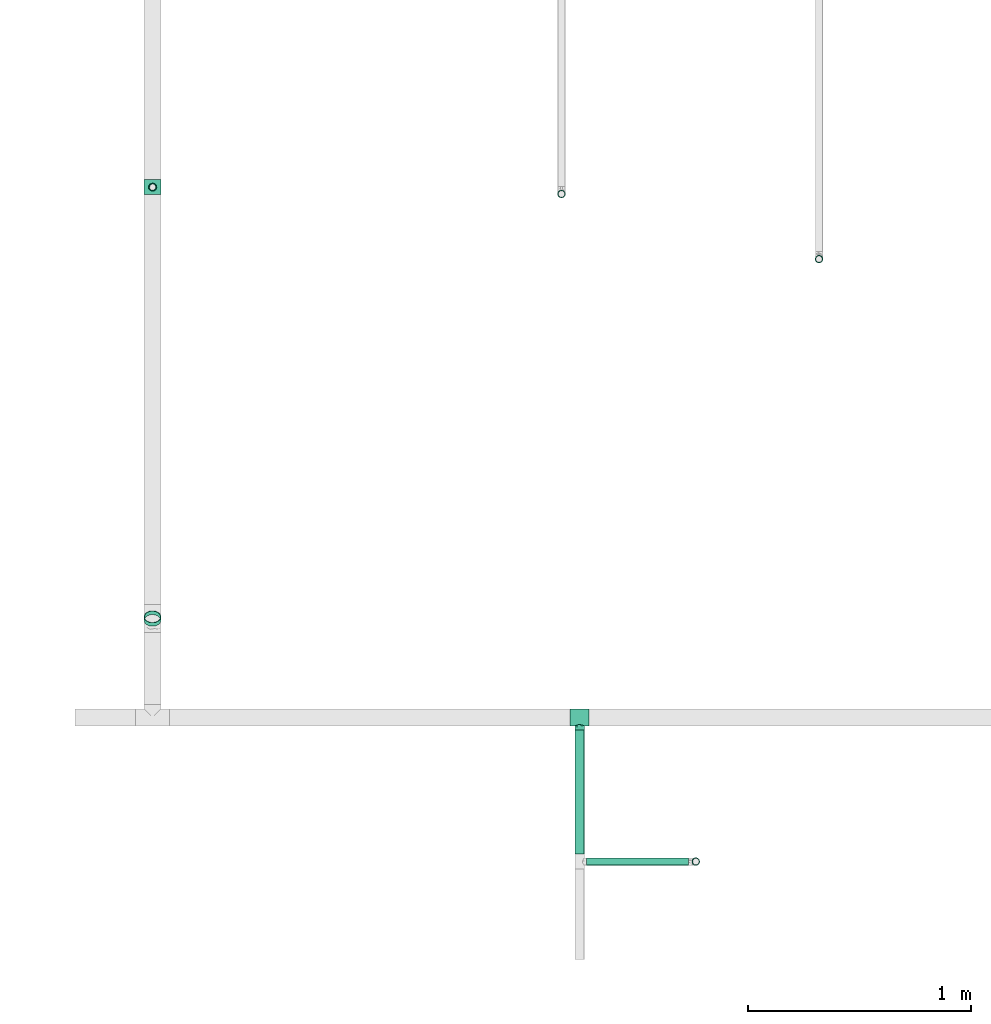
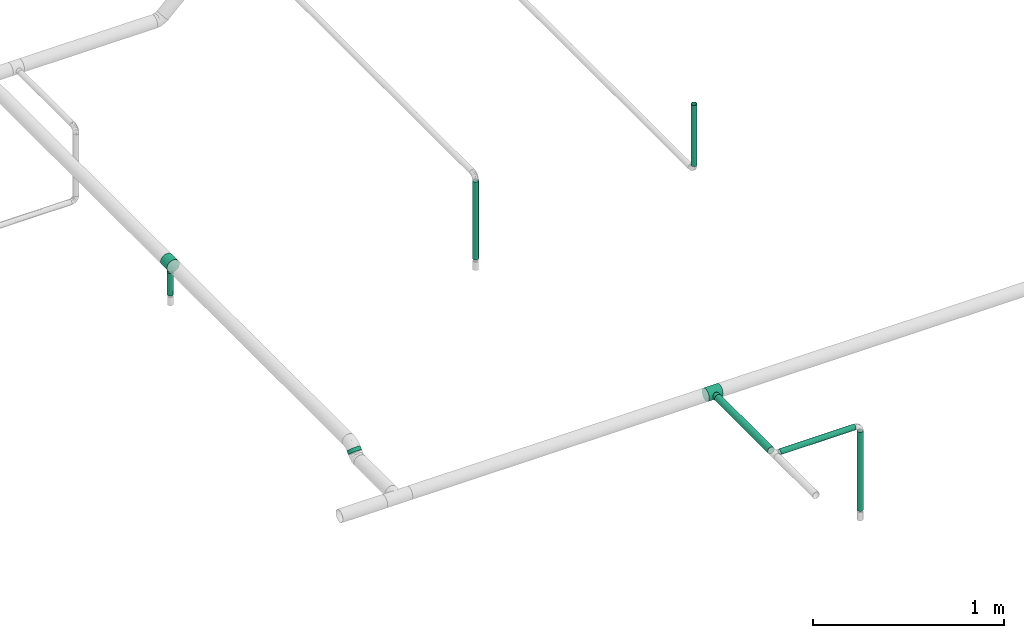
# One storey, part 3 of 95: 7 flow segments, 2 flow fittings.
"""IFC2X3 building model written with IfcOpenShell, lengths in millimetres."""

from ifc_helpers import new_model, entity, si_unit, converted_unit, derived_unit, direction, frame, origin_with_axes, origin_2d_with_axis, place, context, subcontext, project, spatial, hollow_circle, extrude, open_shell, surface_model, source, transform, mapped, type_object, element, save


model = new_model("IFC2X3")

# Units and contexts
model_context = context("Model", 3, precision=0.01, world=frame((0.0, 4.29681676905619e-09, 0.0)), true_north=direction((4.01073788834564e-13, 1.0)))
plan_context = context("Plan", 3, precision=0.01, world=frame((0.0, 4.29681676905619e-09, 0.0)), true_north=direction((4.01073788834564e-13, 1.0)))
body_context = subcontext(model_context, "Body", "Model", "MODEL_VIEW")
ifc_project = project(units=[converted_unit("PLANEANGLEUNIT", "DEGREE", entity("IfcPositiveLengthMeasure", 0.0174532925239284), si_unit("PLANEANGLEUNIT", "RADIAN"), dimensions=[0, 0, 0, 0, 0, 0, 0]), si_unit("AREAUNIT", "SQUARE_METRE"), si_unit("LENGTHUNIT", "METRE", prefix="MILLI"), si_unit("MASSUNIT", "GRAM", prefix="KILO"), si_unit("POWERUNIT", "WATT"), si_unit("PRESSUREUNIT", "PASCAL"), si_unit("FORCEUNIT", "NEWTON", prefix="KILO"), si_unit("ELECTRICVOLTAGEUNIT", "VOLT"), si_unit("ELECTRICCURRENTUNIT", "AMPERE"), si_unit("THERMODYNAMICTEMPERATUREUNIT", "DEGREE_CELSIUS"), si_unit("TIMEUNIT", "SECOND"), si_unit("VOLUMEUNIT", "CUBIC_METRE"), derived_unit("LINEARVELOCITYUNIT", [(si_unit("LENGTHUNIT", "METRE"), 1), (si_unit("TIMEUNIT", "SECOND"), -1)]), derived_unit("VOLUMETRICFLOWRATEUNIT", [(si_unit("VOLUMEUNIT", "CUBIC_METRE"), 1), (si_unit("TIMEUNIT", "SECOND"), -1)]), derived_unit("THERMALTRANSMITTANCEUNIT", [(si_unit("POWERUNIT", "WATT"), 1), (si_unit("THERMODYNAMICTEMPERATUREUNIT", "KELVIN"), -1), (si_unit("AREAUNIT", "SQUARE_METRE"), -1)]), derived_unit("SOUNDPRESSUREUNIT", [(si_unit("PRESSUREUNIT", "PASCAL"), 1)])], contexts=[model_context, plan_context])

# Site, building, storey
site_placement = place(None, frame((0.0, -4.29681676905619e-09, 0.0), z_axis=(0.0, 0.0, 1.0), x_axis=(1.0, 0.0, 0.0)))
site = spatial("IfcSite", under=ifc_project, at=site_placement, CompositionType="ELEMENT")
building_placement = place(site_placement, frame((0.0, 4.29681676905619e-09, 0.0), z_axis=(0.0, 0.0, 1.0), x_axis=(1.0, 0.0, 0.0)))
building = spatial("IfcBuilding", under=site, at=building_placement, Name="mc-building", CompositionType="ELEMENT")
storey_placement = place(building_placement, frame((0.0, 0.0, 210900.0), z_axis=(0.0, 0.0, 1.0), x_axis=(1.0, 0.0, 0.0)))
storey = spatial("IfcBuildingStorey", under=building, at=storey_placement, Name="Nivå F", CompositionType="ELEMENT", Elevation=210900.0)

# Flow fittings
pipe_fitting_type = type_object("IfcPipeFittingType", Name="magi_pipe_fe_tee_centric_90_NOR", PredefinedType="JUNCTION")
shared_shape_1 = source(origin_with_axes(), body_context, "Body", "SurfaceModel", [
    surface_model("IfcShellBasedSurfaceModel", [(42.4, 0.0, 38.1), (42.4, -38.1, 0.0), (42.4, 19.05, 32.99557), (-42.4, 9.86101, -36.80177), (-42.4, 0.0, -38.1), (-42.4, 36.80177, -9.86101), (-42.4, 19.05, -32.99557), (-42.4, 32.99557, -19.05), (-42.4, 26.94077, -26.94077), (-42.4, -38.1, 0.0), (-42.4, -19.05, -32.99557), (-42.4, -26.94077, -26.94077), (-42.4, -9.86101, -36.80177), (-42.4, -32.99557, -19.05), (-42.4, -36.80177, -9.86101), (-42.4, 38.1, 0.0), (-42.4, 32.99557, 19.05), (-42.4, 36.80177, 9.86101), (-42.4, -36.80177, 9.86101), (-42.4, 19.05, 32.99557), (-42.4, 26.94077, 26.94077), (-42.4, 9.86101, 36.80177), (-42.4, 0.0, 38.1), (-42.4, -26.94077, 26.94077), (-42.4, -32.99557, 19.05), (-42.4, -9.86101, 36.80177), (-42.4, -19.05, 32.99557), (42.4, 26.94077, -26.94077), (42.4, 0.0, -38.1), (42.4, 9.86101, -36.80177), (42.4, 19.05, -32.99557), (42.4, 32.99557, -19.05), (42.4, 36.80177, -9.86101), (42.4, -9.86101, -36.80177), (42.4, -26.94077, -26.94077), (42.4, -19.05, -32.99557), (42.4, -32.99557, -19.05), (42.4, -36.80177, -9.86101), (42.4, 38.1, 0.0), (42.4, 36.80177, 9.86101), (42.4, 32.99557, 19.05), (42.4, 26.94077, 26.94077), (42.4, 9.86101, 36.80177), (42.4, -26.94077, 26.94077), (42.4, -32.99557, 19.05), (42.4, -36.80177, 9.86101), (42.4, -19.05, 32.99557), (42.4, -9.86101, 36.80177), (42.4, -37.45089, 4.9305), (19.87843, -37.38077, 7.36803), (20.53922, -37.74039, 3.68402), (16.19602, -35.55954, 13.67951), (3.75245, -31.87869, 20.86526), (21.2, -38.1, 0.0), (42.4, -34.89867, 14.4555), (10.67276, -33.40775, 18.31754), (-10.67466, -33.40836, 18.31643), (-42.4, -34.89867, 14.4555), (-16.20118, -35.56189, 13.6734), (-19.87911, -37.38113, 7.36619), (-42.4, -37.45089, 4.9305), (-20.53956, -37.74057, 3.6831), (-21.2, -38.1, 0.0), (-3.75861, -31.87942, 20.86415), (-42.4, -37.45089, -4.9305), (-19.87911, -37.38113, -7.36619), (-20.53956, -37.74057, -3.6831), (10.67276, -33.40775, -18.31754), (42.4, -34.89867, -14.4555), (16.19602, -35.55954, -13.67951), (20.53922, -37.74039, -3.68402), (42.4, -37.45089, -4.9305), (3.75245, -31.87869, -20.86526), (19.87843, -37.38077, -7.36803), (-3.75861, -31.87942, -20.86415), (-10.67466, -33.40836, -18.31643), (-16.20118, -35.56189, -13.6734), (-42.4, -34.89867, -14.4555), (14.99066, -57.15, -14.99066), (0.0, -57.15, -21.2), (5.48696, -57.15, -20.47763), (10.6, -57.15, -18.35974), (18.35974, -57.15, -10.6), (20.47763, -57.15, -5.48696), (-21.2, -57.15, 0.0), (-10.6, -57.15, 18.35974), (-5.48696, -57.15, -20.47763), (-14.99066, -57.15, -14.99066), (-10.6, -57.15, -18.35974), (-18.35974, -57.15, -10.6), (-20.47763, -57.15, -5.48696), (20.47763, -57.15, 5.48696), (18.35974, -57.15, 10.6), (10.6, -57.15, 18.35974), (14.99066, -57.15, 14.99066), (0.0, -57.15, 21.2), (5.48696, -57.15, 20.47763), (-14.99066, -57.15, 14.99066), (-18.35974, -57.15, 10.6), (-20.47763, -57.15, 5.48696), (-5.48696, -57.15, 20.47763), (21.2, -57.15, 0.0), (-7.21663, -32.64389, 19.59029), (-0.00308, -31.87905, 20.86471), (7.21261, -32.64322, 19.5914), (7.21261, -32.64322, -19.5914), (-0.00308, -31.87905, -20.86471), (-7.21663, -32.64389, -19.59029)], [open_shell([[[0, 1, 2]], [[3, 4, 5]], [[6, 3, 5]], [[5, 7, 8]], [[6, 5, 8]], [[9, 5, 4]], [[10, 11, 12]], [[11, 4, 12]], [[13, 14, 11]], [[9, 11, 14]], [[11, 9, 4]], [[9, 15, 5]], [[16, 17, 15]], [[18, 16, 9]], [[19, 16, 18]], [[20, 16, 19]], [[21, 19, 22]], [[23, 22, 24]], [[19, 18, 24]], [[25, 22, 26]], [[23, 26, 22]], [[24, 22, 19]], [[15, 9, 16]], [[27, 28, 29]], [[27, 29, 30]], [[27, 31, 32]], [[28, 27, 1]], [[1, 27, 32]], [[33, 34, 35]], [[33, 28, 34]], [[36, 1, 37]], [[1, 36, 34]], [[28, 1, 34]], [[32, 38, 1]], [[38, 39, 40]], [[40, 2, 1]], [[2, 40, 41]], [[42, 0, 2]], [[1, 43, 44]], [[44, 45, 1]], [[46, 0, 47]], [[46, 43, 1]], [[1, 0, 46]], [[40, 1, 38]], [[48, 45, 49]], [[1, 48, 50]], [[45, 51, 49]], [[44, 43, 52]], [[1, 50, 53]], [[51, 54, 55]], [[52, 55, 44]], [[48, 49, 50]], [[43, 23, 52]], [[55, 54, 44]], [[56, 57, 58]], [[59, 60, 61]], [[62, 61, 9]], [[59, 58, 18]], [[56, 63, 24]], [[51, 45, 54]], [[24, 57, 56]], [[24, 63, 23]], [[58, 57, 18]], [[63, 52, 23]], [[9, 61, 60]], [[59, 18, 60]], [[43, 26, 23]], [[22, 47, 0]], [[25, 46, 47]], [[21, 0, 42]], [[40, 39, 17]], [[20, 2, 41]], [[16, 41, 40]], [[42, 2, 19]], [[15, 39, 38]], [[26, 46, 25]], [[25, 47, 22]], [[21, 22, 0]], [[42, 19, 21]], [[19, 2, 20]], [[16, 20, 41]], [[17, 16, 40]], [[39, 15, 17]], [[46, 26, 43]], [[15, 38, 32]], [[31, 27, 8]], [[64, 65, 66]], [[5, 32, 31]], [[28, 33, 12]], [[3, 30, 29]], [[4, 29, 28]], [[30, 6, 27]], [[10, 33, 35]], [[67, 68, 69]], [[5, 31, 7]], [[15, 32, 5]], [[1, 70, 71]], [[7, 31, 8]], [[8, 27, 6]], [[6, 30, 3]], [[4, 3, 29]], [[12, 4, 28]], [[33, 10, 12]], [[35, 11, 10]], [[34, 36, 72]], [[9, 66, 62]], [[67, 72, 36]], [[68, 67, 36]], [[34, 72, 11]], [[53, 70, 1]], [[73, 69, 37]], [[73, 71, 70]], [[73, 37, 71]], [[37, 69, 68]], [[74, 75, 13]], [[76, 14, 77]], [[13, 11, 74]], [[76, 77, 75]], [[74, 11, 72]], [[76, 65, 14]], [[65, 64, 14]], [[66, 9, 64]], [[77, 13, 75]], [[34, 11, 35]], [[78, 79, 80]], [[78, 80, 81]], [[78, 82, 83]], [[78, 83, 79]], [[84, 79, 85]], [[86, 87, 88]], [[86, 79, 87]], [[89, 84, 90]], [[87, 79, 89]], [[79, 84, 89]], [[79, 83, 85]], [[91, 92, 83]], [[92, 93, 83]], [[93, 85, 83]], [[93, 92, 94]], [[95, 93, 96]], [[84, 97, 98]], [[99, 84, 98]], [[85, 95, 100]], [[85, 97, 84]], [[93, 95, 85]], [[83, 101, 91]], [[99, 61, 84]], [[58, 98, 97]], [[99, 98, 59]], [[97, 85, 56]], [[61, 62, 84]], [[59, 98, 58]], [[100, 63, 102]], [[56, 58, 97]], [[95, 52, 103]], [[93, 104, 96]], [[102, 85, 100]], [[102, 56, 85]], [[99, 59, 61]], [[96, 52, 95]], [[49, 92, 91]], [[50, 101, 53]], [[50, 49, 91]], [[94, 92, 51]], [[95, 63, 100]], [[104, 52, 96]], [[93, 55, 104]], [[93, 94, 55]], [[55, 94, 51]], [[51, 92, 49]], [[101, 50, 91]], [[103, 63, 95]], [[83, 70, 101]], [[69, 82, 78]], [[83, 82, 73]], [[78, 81, 67]], [[70, 53, 101]], [[73, 82, 69]], [[80, 72, 105]], [[67, 69, 78]], [[79, 74, 106]], [[88, 107, 86]], [[66, 84, 62]], [[105, 81, 80]], [[105, 67, 81]], [[75, 88, 87]], [[83, 73, 70]], [[90, 65, 89]], [[89, 76, 87]], [[66, 65, 90]], [[79, 72, 80]], [[86, 107, 74]], [[74, 79, 86]], [[75, 107, 88]], [[75, 87, 76]], [[76, 89, 65]], [[84, 66, 90]], [[106, 72, 79]]])]),
])
flow_fitting_1_placement = place(storey_placement, frame((522779.7291, 441860.92369, 4310.0), z_axis=(0.0, 0.0, -1.0), x_axis=(-1.0, 0.0, 0.0)))
element("IfcFlowFitting", 1, at=flow_fitting_1_placement, inside=storey, type_object=pipe_fitting_type, Name="magi_pipe_fe_tee_centric_90_NOR", context=body_context, shape_type="MappedRepresentation", body=[
    mapped(shared_shape_1, transform((0.0, 0.0, 0.0), scale=1.0)),
])
shared_shape_2 = source(origin_with_axes(), body_context, "Body", "SurfaceModel", [
    surface_model("IfcShellBasedSurfaceModel", [(-33.8, 9.86101, -36.80177), (-33.8, 0.0, -38.1), (-33.8, 36.80177, -9.86101), (-33.8, 19.05, -32.99557), (-33.8, 32.99557, -19.05), (-33.8, 26.94077, -26.94077), (-33.8, -38.1, 0.0), (-33.8, -19.05, -32.99557), (-33.8, -26.94077, -26.94077), (-33.8, -9.86101, -36.80177), (-33.8, -32.99557, -19.05), (-33.8, -36.80177, -9.86101), (-33.8, 38.1, 0.0), (-33.8, 32.99557, 19.05), (-33.8, 36.80177, 9.86101), (-33.8, -36.80177, 9.86101), (-33.8, 19.05, 32.99557), (-33.8, 26.94077, 26.94077), (-33.8, 9.86101, 36.80177), (-33.8, 0.0, 38.1), (-33.8, -26.94077, 26.94077), (-33.8, -32.99557, 19.05), (-33.8, -9.86101, 36.80177), (-33.8, -19.05, 32.99557), (33.8, 0.0, -38.1), (33.8, 9.86101, -36.80177), (33.8, 19.05, -32.99557), (33.8, 26.94077, -26.94077), (33.8, 32.99557, -19.05), (33.8, 36.80177, -9.86101), (33.8, -38.1, 0.0), (33.8, -9.86101, -36.80177), (33.8, -26.94077, -26.94077), (33.8, -19.05, -32.99557), (33.8, -32.99557, -19.05), (33.8, -36.80177, -9.86101), (33.8, 36.80177, 9.86101), (33.8, 32.99557, 19.05), (33.8, 19.05, 32.99557), (33.8, 0.0, 38.1), (33.8, 26.94077, 26.94077), (33.8, 9.86101, 36.80177), (33.8, -26.94077, 26.94077), (33.8, -32.99557, 19.05), (33.8, -36.80177, 9.86101), (33.8, -19.05, 32.99557), (33.8, -9.86101, 36.80177), (33.8, 38.1, 0.0), (33.8, -37.45089, 4.9305), (15.86072, -37.65053, 5.83504), (16.9, -38.1, 0.0), (12.92726, -36.51183, 10.88559), (2.96752, -34.27545, 16.63742), (33.8, -34.89867, 14.4555), (8.48894, -35.18611, 14.61328), (-8.4904, -35.18646, 14.61243), (-33.8, -34.89867, 14.4555), (-15.8612, -37.65073, 5.83372), (-33.8, -37.45089, 4.9305), (-16.9, -38.1, 0.0), (-12.9317, -36.51341, 10.88031), (-2.97221, -34.27585, 16.63658), (-33.8, -37.45089, -4.9305), (-15.8612, -37.65073, -5.83372), (15.86072, -37.65053, -5.83504), (33.8, -37.45089, -4.9305), (-12.9317, -36.51341, -10.88031), (-33.8, -34.89867, -14.4555), (-8.4904, -35.18646, -14.61243), (2.96752, -34.27545, -16.63742), (8.48894, -35.18611, -14.61328), (33.8, -34.89867, -14.4555), (12.92726, -36.51183, -10.88559), (-2.97221, -34.27585, -16.63658), (4.37404, -57.15, -16.32415), (-16.9, -57.15, 0.0), (0.0, -57.15, -16.9), (14.63583, -57.15, -8.45), (8.45, -57.15, -14.63583), (16.32415, -57.15, -4.37404), (11.9501, -57.15, -11.9501), (-11.9501, -57.15, -11.9501), (-8.45, -57.15, -14.63583), (-4.37404, -57.15, -16.32415), (-14.63583, -57.15, -8.45), (-16.32415, -57.15, -4.37404), (16.9, -57.15, 0.0), (8.45, -57.15, 14.63583), (16.32415, -57.15, 4.37404), (14.63583, -57.15, 8.45), (-8.45, -57.15, 14.63583), (11.9501, -57.15, 11.9501), (4.37404, -57.15, 16.32415), (-16.32415, -57.15, 4.37404), (-11.9501, -57.15, 11.9501), (-14.63583, -57.15, 8.45), (0.0, -57.15, 16.9), (-4.37404, -57.15, 16.32415), (-16.3806, -37.87537, 2.91686), (-5.7313, -34.73116, 15.62451), (-0.00235, -34.27565, 16.637), (5.72823, -34.73078, 15.62535), (16.38036, -37.87526, 2.91752), (16.38036, -37.87526, -2.91752), (5.72823, -34.73078, -15.62535), (-0.00235, -34.27565, -16.637), (-5.7313, -34.73116, -15.62451), (-16.3806, -37.87537, -2.91686)], [open_shell([[[0, 1, 2]], [[3, 0, 2]], [[2, 4, 5]], [[3, 2, 5]], [[6, 2, 1]], [[7, 8, 9]], [[8, 1, 9]], [[10, 11, 8]], [[6, 8, 11]], [[8, 6, 1]], [[6, 12, 2]], [[13, 14, 12]], [[15, 13, 6]], [[16, 13, 15]], [[17, 13, 16]], [[18, 16, 19]], [[20, 19, 21]], [[16, 15, 21]], [[22, 19, 23]], [[20, 23, 19]], [[21, 19, 16]], [[12, 6, 13]], [[24, 25, 26]], [[24, 26, 27]], [[27, 28, 29]], [[24, 27, 30]], [[30, 27, 29]], [[31, 32, 33]], [[31, 24, 32]], [[34, 30, 35]], [[30, 34, 32]], [[24, 30, 32]], [[29, 36, 30]], [[36, 37, 30]], [[30, 37, 38]], [[38, 39, 30]], [[38, 37, 40]], [[39, 38, 41]], [[30, 42, 43]], [[44, 30, 43]], [[45, 39, 46]], [[45, 42, 30]], [[30, 39, 45]], [[36, 29, 47]], [[48, 44, 49]], [[50, 30, 48]], [[44, 51, 49]], [[43, 42, 52]], [[50, 48, 49]], [[44, 53, 51]], [[52, 54, 43]], [[42, 20, 52]], [[54, 53, 43]], [[55, 21, 56]], [[57, 58, 59]], [[6, 59, 58]], [[57, 60, 15]], [[55, 61, 21]], [[51, 53, 54]], [[15, 60, 56]], [[21, 61, 20]], [[56, 60, 55]], [[61, 52, 20]], [[57, 15, 58]], [[42, 23, 20]], [[19, 46, 39]], [[22, 45, 46]], [[18, 39, 41]], [[37, 36, 14]], [[17, 38, 40]], [[13, 40, 37]], [[41, 38, 16]], [[12, 36, 47]], [[23, 45, 22]], [[22, 46, 19]], [[18, 19, 39]], [[41, 16, 18]], [[16, 38, 17]], [[13, 17, 40]], [[14, 13, 37]], [[36, 12, 14]], [[45, 23, 42]], [[12, 47, 29]], [[29, 28, 2]], [[59, 62, 63]], [[27, 4, 28]], [[9, 24, 31]], [[0, 26, 25]], [[64, 35, 65]], [[24, 1, 25]], [[31, 33, 7]], [[27, 26, 5]], [[66, 67, 68]], [[4, 2, 28]], [[12, 29, 2]], [[27, 5, 4]], [[3, 26, 0]], [[26, 3, 5]], [[0, 25, 1]], [[9, 1, 24]], [[31, 7, 9]], [[33, 8, 7]], [[32, 34, 69]], [[70, 34, 71]], [[70, 69, 34]], [[35, 72, 71]], [[32, 69, 8]], [[30, 50, 65]], [[64, 72, 35]], [[64, 65, 50]], [[72, 70, 71]], [[73, 68, 10]], [[10, 8, 73]], [[68, 67, 10]], [[73, 8, 69]], [[66, 63, 11]], [[63, 62, 11]], [[62, 59, 6]], [[11, 67, 66]], [[32, 8, 33]], [[74, 75, 76]], [[77, 74, 78]], [[77, 79, 74]], [[77, 78, 80]], [[75, 74, 79]], [[76, 81, 82]], [[82, 83, 76]], [[84, 75, 85]], [[81, 76, 84]], [[75, 84, 76]], [[79, 86, 75]], [[87, 86, 88]], [[87, 88, 89]], [[90, 75, 87]], [[87, 89, 91]], [[90, 87, 92]], [[93, 94, 95]], [[94, 93, 90]], [[90, 96, 97]], [[93, 75, 90]], [[92, 96, 90]], [[87, 75, 86]], [[93, 98, 75]], [[60, 95, 94]], [[93, 95, 57]], [[94, 90, 55]], [[98, 59, 75]], [[57, 95, 60]], [[97, 61, 99]], [[55, 60, 94]], [[96, 52, 100]], [[87, 101, 92]], [[99, 90, 97]], [[99, 55, 90]], [[93, 57, 98]], [[92, 52, 96]], [[49, 89, 88]], [[102, 86, 50]], [[102, 49, 88]], [[91, 89, 51]], [[96, 61, 97]], [[101, 52, 92]], [[87, 54, 101]], [[87, 91, 54]], [[54, 91, 51]], [[51, 89, 49]], [[86, 102, 88]], [[100, 61, 96]], [[79, 103, 86]], [[72, 77, 80]], [[79, 77, 64]], [[80, 78, 70]], [[103, 50, 86]], [[64, 77, 72]], [[74, 69, 104]], [[70, 72, 80]], [[76, 73, 105]], [[82, 106, 83]], [[107, 75, 59]], [[104, 78, 74]], [[104, 70, 78]], [[68, 82, 81]], [[79, 64, 103]], [[63, 84, 85]], [[107, 63, 85]], [[84, 66, 81]], [[76, 69, 74]], [[83, 106, 73]], [[73, 76, 83]], [[68, 106, 82]], [[68, 81, 66]], [[66, 84, 63]], [[75, 107, 85]], [[105, 69, 76]]])]),
])
flow_fitting_2_placement = place(storey_placement, frame((520864.85321, 444238.4375, 4370.29999999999), z_axis=(1.0, 0.0, 0.0), x_axis=(0.0, 1.0, 0.0)))
element("IfcFlowFitting", 2, at=flow_fitting_2_placement, inside=storey, type_object=pipe_fitting_type, Name="magi_pipe_fe_tee_centric_90_NOR", context=body_context, shape_type="MappedRepresentation", body=[
    mapped(shared_shape_2, transform((0.0, 0.0, 0.0), scale=1.0)),
])

# Flow segments
pipe_segment_type = type_object("IfcPipeSegmentType", Name="Stålrør normaltykke", PredefinedType="RIGIDSEGMENT")
shared_shape_3 = source(origin_with_axes(), body_context, "Body", "SweptSolid", [
    extrude(hollow_circle(Radius=16.9, WallThickness=2.0, at=origin_2d_with_axis()), frame((0.0, 0.0, 0.0), z_axis=(1.0, 0.0, 0.0), x_axis=(0.0, 1.0, 0.0)), (0.0, 0.0, 1.0), 455.6),
])
flow_segment_1_placement = place(storey_placement, frame((522811.5291, 441214.71498, 4310.0), z_axis=(0.0, 0.0, 1.0), x_axis=(1.0, 0.0, 0.0)))
element("IfcFlowSegment", 3, at=flow_segment_1_placement, inside=storey, type_object=pipe_segment_type, Name="Stålrør normaltykke", context=body_context, shape_type="MappedRepresentation", body=[
    mapped(shared_shape_3, transform((0.0, 0.0, 0.0), scale=1.0)),
])
shared_shape_4 = source(origin_with_axes(), body_context, "Body", "SweptSolid", [
    extrude(hollow_circle(Radius=21.2, WallThickness=2.0, at=origin_2d_with_axis()), frame((0.0, 0.0, 0.0), z_axis=(1.0, 0.0, 0.0), x_axis=(0.0, 1.0, 0.0)), (0.0, 0.0, 1.0), 555.3),
])
flow_segment_2_placement = place(storey_placement, frame((522779.7291, 441803.77369, 4310.0), z_axis=(0.0, 0.0, 1.0), x_axis=(0.0, -1.0, 0.0)))
element("IfcFlowSegment", 4, at=flow_segment_2_placement, inside=storey, type_object=pipe_segment_type, Name="Stålrør normaltykke", context=body_context, shape_type="MappedRepresentation", body=[
    mapped(shared_shape_4, transform((0.0, 0.0, 0.0), scale=1.0)),
])
shared_shape_5 = source(origin_with_axes(), body_context, "Body", "SweptSolid", [
    extrude(hollow_circle(Radius=16.9, WallThickness=2.0, at=origin_2d_with_axis()), frame((0.0, 0.0, 0.0), z_axis=(1.0, 0.0, 0.0), x_axis=(0.0, 1.0, 0.0)), (0.0, 0.0, 1.0), 506.9),
])
flow_segment_3_placement = place(storey_placement, frame((523300.9291, 441214.71498, 4276.20000000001), z_axis=(0.0, -1.0, 0.0), x_axis=(0.0, 0.0, -1.0)))
element("IfcFlowSegment", 5, at=flow_segment_3_placement, inside=storey, type_object=pipe_segment_type, Name="Stålrør normaltykke", context=body_context, shape_type="MappedRepresentation", body=[
    mapped(shared_shape_5, transform((0.0, 0.0, 0.0), scale=1.0)),
])
shared_shape_6 = source(origin_with_axes(), body_context, "Body", "SweptSolid", [
    extrude(hollow_circle(Radius=16.9, WallThickness=2.0, at=origin_2d_with_axis()), frame((0.0, 0.0, 0.0), z_axis=(1.0, 0.0, 0.0), x_axis=(0.0, 1.0, 0.0)), (0.0, 0.0, 1.0), 146.5),
])
flow_segment_4_placement = place(storey_placement, frame((520864.85321, 444238.4375, 4313.14999999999), z_axis=(0.0, -1.0, 0.0), x_axis=(0.00933600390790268, 0.0, -0.999956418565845)))
element("IfcFlowSegment", 6, at=flow_segment_4_placement, inside=storey, type_object=pipe_segment_type, Name="Stålrør normaltykke", context=body_context, shape_type="MappedRepresentation", body=[
    mapped(shared_shape_6, transform((0.0, 0.0, 0.0), scale=1.0)),
])
shared_shape_7 = source(origin_with_axes(), body_context, "Body", "SweptSolid", [
    extrude(hollow_circle(Radius=16.9, WallThickness=2.0, at=origin_2d_with_axis()), frame((0.0, 0.0, 0.0), z_axis=(1.0, 0.0, 0.0), x_axis=(0.0, 1.0, 0.0)), (0.0, 0.0, 1.0), 390.6),
])
flow_segment_5_placement = place(storey_placement, frame((523853.43639, 443915.88295, 4147.04800000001), z_axis=(0.0, 1.0, 0.0), x_axis=(0.0, 0.0, 1.0)))
element("IfcFlowSegment", 7, at=flow_segment_5_placement, inside=storey, type_object=pipe_segment_type, Name="Stålrør normaltykke", context=body_context, shape_type="MappedRepresentation", body=[
    mapped(shared_shape_7, transform((0.0, 0.0, 0.0), scale=1.0)),
])
shared_shape_8 = source(origin_with_axes(), body_context, "Body", "SweptSolid", [
    extrude(hollow_circle(Radius=38.0, WallThickness=2.0, at=origin_2d_with_axis()), frame((0.0, 0.0, 0.0), z_axis=(1.0, 0.0, 0.0), x_axis=(0.0, 1.0, 0.0)), (0.0, 0.0, 1.0), 22.2),
])
flow_segment_6_placement = place(storey_placement, frame((520864.85321, 442296.74252, 4332.31846000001), z_axis=(0.0, -0.707106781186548, 0.707106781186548), x_axis=(0.0, 0.707106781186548, 0.707106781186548)))
element("IfcFlowSegment", 8, at=flow_segment_6_placement, inside=storey, type_object=pipe_segment_type, Name="Stålrør normaltykke", context=body_context, shape_type="MappedRepresentation", body=[
    mapped(shared_shape_8, transform((0.0, 0.0, 0.0), scale=1.0)),
])
shared_shape_9 = source(origin_with_axes(), body_context, "Body", "SweptSolid", [
    extrude(hollow_circle(Radius=16.9, WallThickness=2.0, at=origin_2d_with_axis()), frame((0.0, 0.0, 0.0), z_axis=(1.0, 0.0, 0.0), x_axis=(0.0, 1.0, 0.0)), (0.0, 0.0, 1.0), 499.1),
])
flow_segment_7_placement = place(storey_placement, frame((522698.68266, 444207.85, 3775.348), z_axis=(-1.0, 0.0, 0.0), x_axis=(0.0, 0.0, 1.0)))
element("IfcFlowSegment", 9, at=flow_segment_7_placement, inside=storey, type_object=pipe_segment_type, Name="Stålrør normaltykke", context=body_context, shape_type="MappedRepresentation", body=[
    mapped(shared_shape_9, transform((0.0, 0.0, 0.0), scale=1.0)),
])

save(model, "model.ifc")
